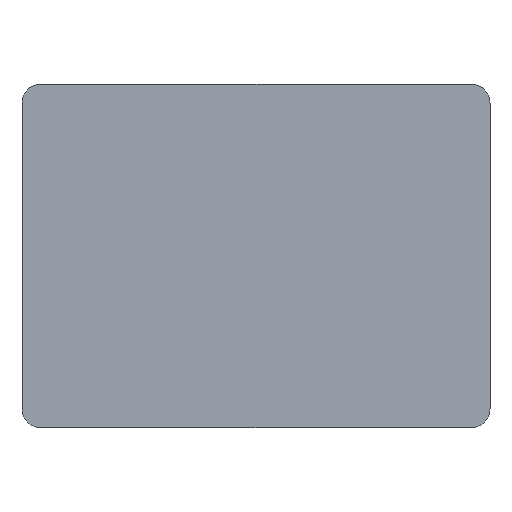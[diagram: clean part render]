
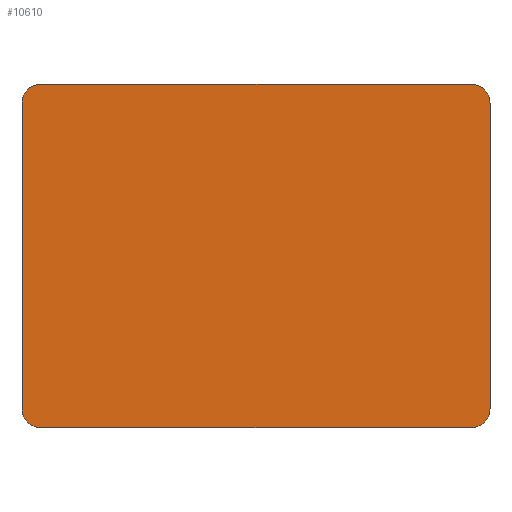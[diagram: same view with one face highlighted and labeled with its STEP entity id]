
A CAD part, left-side view. The second image highlights one B-rep face of the part: STEP entity #10610.
In plain terms, the highlighted planar face has unit normal (-1, 0, 0).
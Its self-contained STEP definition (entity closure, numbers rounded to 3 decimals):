
#1381=PLANE('',#10901);
#1933=FACE_OUTER_BOUND('',#2556,.T.);
#2556=EDGE_LOOP('',(#9815,#9816,#9817,#9818,#9819,#9820,#9821,#9822));
#3330=LINE('',#21468,#4103);
#3335=LINE('',#21493,#4108);
#3344=LINE('',#21536,#4117);
#3347=LINE('',#21545,#4120);
#4103=VECTOR('',#12065,10.);
#4108=VECTOR('',#12098,10.);
#4117=VECTOR('',#12149,10.);
#4120=VECTOR('',#12158,10.);
#4189=CIRCLE('',#10899,3.);
#4190=CIRCLE('',#10902,3.);
#4191=CIRCLE('',#10903,3.);
#4192=CIRCLE('',#10904,3.);
#5207=VERTEX_POINT('',#21462);
#5209=VERTEX_POINT('',#21466);
#5213=VERTEX_POINT('',#21487);
#5215=VERTEX_POINT('',#21491);
#5227=VERTEX_POINT('',#21531);
#5228=VERTEX_POINT('',#21535);
#5230=VERTEX_POINT('',#21542);
#5231=VERTEX_POINT('',#21544);
#6743=EDGE_CURVE('',#5209,#5207,#3330,.T.);
#6750=EDGE_CURVE('',#5215,#5213,#3335,.T.);
#6769=EDGE_CURVE('',#5213,#5227,#4189,.T.);
#6771=EDGE_CURVE('',#5227,#5228,#3344,.T.);
#6774=EDGE_CURVE('',#5207,#5215,#4190,.T.);
#6775=EDGE_CURVE('',#5230,#5209,#4191,.T.);
#6776=EDGE_CURVE('',#5231,#5230,#3347,.T.);
#6777=EDGE_CURVE('',#5228,#5231,#4192,.T.);
#9815=ORIENTED_EDGE('',*,*,#6769,.F.);
#9816=ORIENTED_EDGE('',*,*,#6750,.F.);
#9817=ORIENTED_EDGE('',*,*,#6774,.F.);
#9818=ORIENTED_EDGE('',*,*,#6743,.F.);
#9819=ORIENTED_EDGE('',*,*,#6775,.F.);
#9820=ORIENTED_EDGE('',*,*,#6776,.F.);
#9821=ORIENTED_EDGE('',*,*,#6777,.F.);
#9822=ORIENTED_EDGE('',*,*,#6771,.F.);
#10610=ADVANCED_FACE('',(#1933),#1381,.F.);
#10899=AXIS2_PLACEMENT_3D('',#21532,#12144,#12145);
#10901=AXIS2_PLACEMENT_3D('',#21540,#12152,#12153);
#10902=AXIS2_PLACEMENT_3D('',#21541,#12154,#12155);
#10903=AXIS2_PLACEMENT_3D('',#21543,#12156,#12157);
#10904=AXIS2_PLACEMENT_3D('',#21546,#12159,#12160);
#12065=DIRECTION('',(0.,0.,-1.));
#12098=DIRECTION('',(0.,1.,0.));
#12144=DIRECTION('center_axis',(1.,0.,0.));
#12145=DIRECTION('ref_axis',(0.,0.707,-0.707));
#12149=DIRECTION('',(0.,0.,1.));
#12152=DIRECTION('center_axis',(1.,0.,0.));
#12153=DIRECTION('ref_axis',(0.,1.,0.));
#12154=DIRECTION('center_axis',(1.,0.,0.));
#12155=DIRECTION('ref_axis',(0.,-0.707,-0.707));
#12156=DIRECTION('center_axis',(1.,0.,0.));
#12157=DIRECTION('ref_axis',(0.,-0.707,0.707));
#12158=DIRECTION('',(0.,-1.,0.));
#12159=DIRECTION('center_axis',(1.,0.,0.));
#12160=DIRECTION('ref_axis',(0.,0.707,0.707));
#21462=CARTESIAN_POINT('',(0.,0.,3.));
#21466=CARTESIAN_POINT('',(0.,0.,52.));
#21468=CARTESIAN_POINT('',(0.,0.,55.));
#21487=CARTESIAN_POINT('',(0.,72.,0.));
#21491=CARTESIAN_POINT('',(0.,3.,0.));
#21493=CARTESIAN_POINT('',(0.,0.,0.));
#21531=CARTESIAN_POINT('',(0.,75.,3.));
#21532=CARTESIAN_POINT('Origin',(0.,72.,3.));
#21535=CARTESIAN_POINT('',(0.,75.,52.));
#21536=CARTESIAN_POINT('',(0.,75.,0.));
#21540=CARTESIAN_POINT('Origin',(0.,37.5,27.5));
#21541=CARTESIAN_POINT('Origin',(0.,3.,3.));
#21542=CARTESIAN_POINT('',(0.,3.,55.));
#21543=CARTESIAN_POINT('Origin',(0.,3.,52.));
#21544=CARTESIAN_POINT('',(0.,72.,55.));
#21545=CARTESIAN_POINT('',(0.,75.,55.));
#21546=CARTESIAN_POINT('Origin',(0.,72.,52.));
